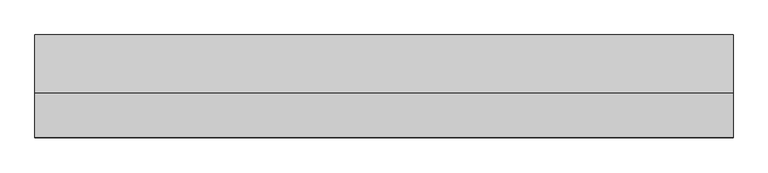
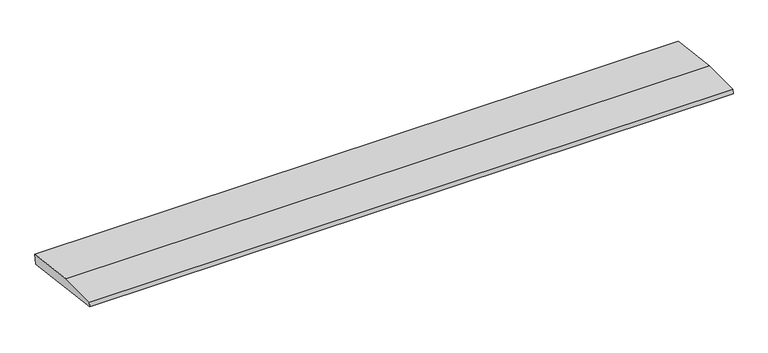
"""IFC4 building model written with IfcOpenShell, lengths in millimetres: beam geometry, weatherboad : weatherboad."""

from ifc_helpers import new_model, si_unit, frame, origin, place, context, project, spatial, polyline, outline, extrude, source, transform, mapped, element, save


def beam_6d1ce91c(model_context):
    return source(origin(), model_context, "Body", "SweptSolid", [
        extrude(outline(polyline([(0.0, -9.143159), (1.1226388, 0.0), (79.0749747, 0.0), (180.9387048, -12.5072934), (178.6231873, -31.3656703), (0.0, -9.143159)])), frame((-613.2751795, 0.0, 0.0), z_axis=(1.0, 0.0, 0.0), x_axis=(0.0, 1.0, 0.0)), (0.0, 0.0, 1.0), 1226.550359),
    ])


if __name__ == "__main__":
    model = new_model("IFC4")
    model_context = context("Model", 3, world=origin())
    ifc_project = project(units=[si_unit("LENGTHUNIT", "METRE", prefix="MILLI")], contexts=[model_context])
    site = spatial("IfcSite", under=ifc_project)
    building = spatial("IfcBuilding", under=site)
    placement = place(None, origin())
    beam_shape = beam_6d1ce91c(model_context)
    element("IfcBeam", 1, ObjectType="weatherboad : weatherboad", at=placement, inside=building, context=model_context, shape_type="MappedRepresentation", body=[
        mapped(beam_shape, transform((0.0, 0.0, 0.0), x_axis=(1.0, 0.0, 0.0), y_axis=(0.0, 1.0, 0.0), z_axis=(0.0, 0.0, 1.0))),
    ])
    save(model, "model.ifc")
